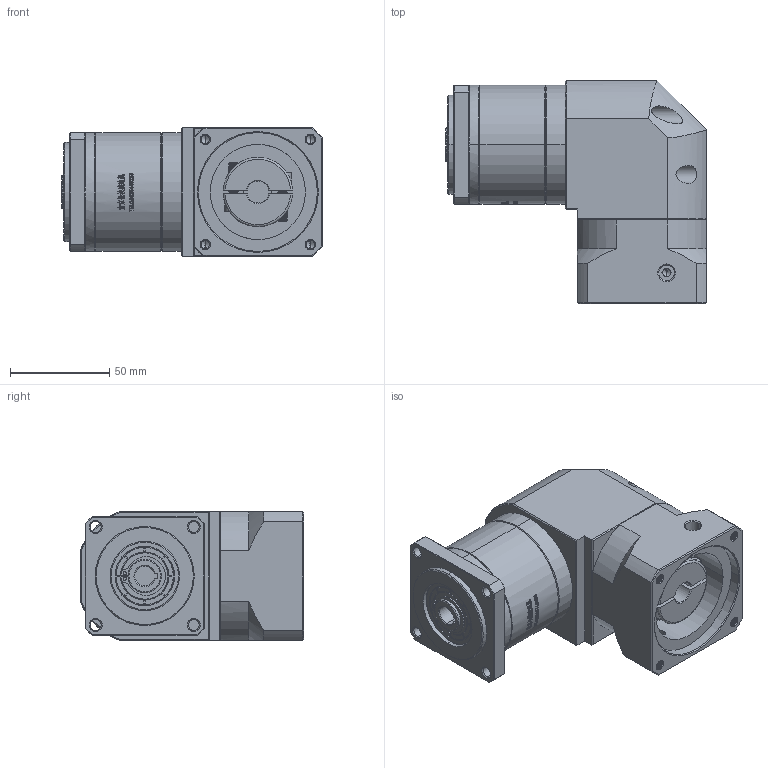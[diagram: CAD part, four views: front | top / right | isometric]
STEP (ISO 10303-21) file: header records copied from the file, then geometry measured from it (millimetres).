
FILE_DESCRIPTION (( 'STEP AP214' ), '1' );
FILE_NAME ('ZFR60-K10-L1-11-60-75-M5.STEP', '2022-04-20T08:56:54', ( '' ), ( 'Microsoft' ), 'SwSTEP 2.0', 'SolidWorks 2016', '' );
FILE_SCHEMA (( 'AUTOMOTIVE_DESIGN' ));
Length unit declared in the file: millimetre
Products named in the file (1): ZFR60-K10-L1-11-60-75-M5
Bounding box: 131.5 x 112.7 x 65 mm (x, y, z)
Volume: 545204.8 mm3; surface area: 79124.7 mm2
Topology: 5 solids, 6 shells, 2627 faces, 7145 edges, 4654 vertices
Faces by surface type: plane 1390, bspline 584, cylinder 359, cone 282, torus 12
Entity records: 143034 total; most frequent: CARTESIAN_POINT 53224, ORIENTED_EDGE 14250, DIRECTION 10236, EDGE_CURVE 7125, VERTEX_POINT 4654, LINE 4338, VECTOR 4338, AXIS2_PLACEMENT_3D 2949
